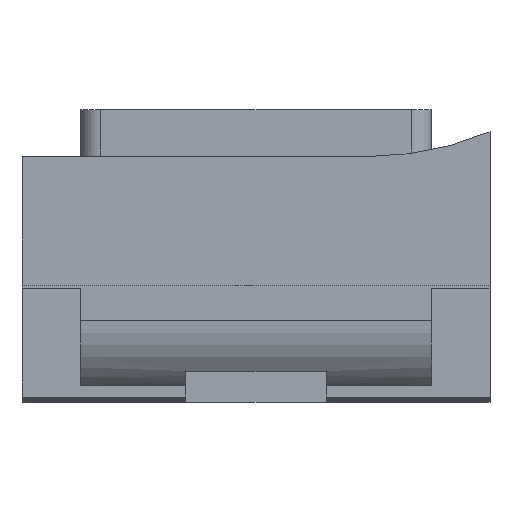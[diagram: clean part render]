
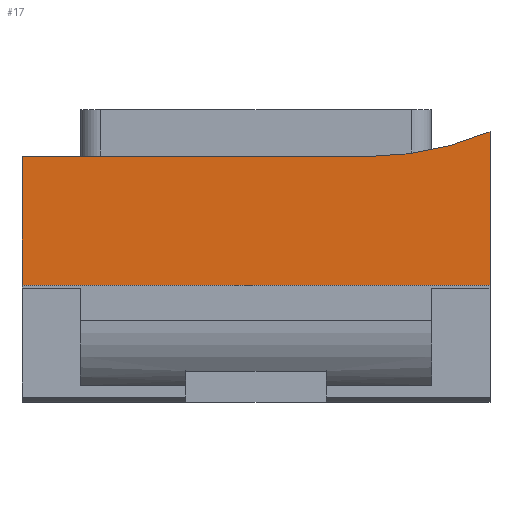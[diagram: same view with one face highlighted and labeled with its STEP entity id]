
A CAD part, left-side view. The second image highlights one B-rep face of the part: STEP entity #17.
In plain terms, the highlighted planar face has unit normal (-1, 0, 0).
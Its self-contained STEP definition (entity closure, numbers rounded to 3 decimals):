
#17 = ADVANCED_FACE('',(#18),#32,.F.);
#18 = FACE_BOUND('',#19,.F.);
#19 = EDGE_LOOP('',(#20,#53,#81,#107,#135));
#20 = ORIENTED_EDGE('',*,*,#21,.F.);
#21 = EDGE_CURVE('',#22,#24,#26,.T.);
#22 = VERTEX_POINT('',#23);
#23 = CARTESIAN_POINT('',(-42.8,-16.,-9.));
#24 = VERTEX_POINT('',#25);
#25 = CARTESIAN_POINT('',(-42.8,-16.,-6.375));
#26 = SURFACE_CURVE('',#27,(#31,#42),.PCURVE_S1.);
#27 = LINE('',#28,#29);
#28 = CARTESIAN_POINT('',(-42.8,-16.,-12.125));
#29 = VECTOR('',#30,1.);
#30 = DIRECTION('',(0.,0.,1.));
#31 = PCURVE('',#32,#37);
#32 = PLANE('',#33);
#33 = AXIS2_PLACEMENT_3D('',#34,#35,#36);
#34 = CARTESIAN_POINT('',(-42.8,-66.8,-13.2));
#35 = DIRECTION('',(1.,0.,0.));
#36 = DIRECTION('',(0.,0.,1.));
#37 = DEFINITIONAL_REPRESENTATION('',(#38),#41);
#38 = B_SPLINE_CURVE_WITH_KNOTS('',1,(#39,#40),.UNSPECIFIED.,.F.,.F.,(2,
    2),(3.125,6.325),.PIECEWISE_BEZIER_KNOTS.);
#39 = CARTESIAN_POINT('',(4.2,-50.8));
#40 = CARTESIAN_POINT('',(7.4,-50.8));
#41 = ( GEOMETRIC_REPRESENTATION_CONTEXT(2) 
PARAMETRIC_REPRESENTATION_CONTEXT() REPRESENTATION_CONTEXT('2D SPACE',''
  ) );
#42 = PCURVE('',#43,#48);
#43 = PLANE('',#44);
#44 = AXIS2_PLACEMENT_3D('',#45,#46,#47);
#45 = CARTESIAN_POINT('',(-43.,-16.,-11.05));
#46 = DIRECTION('',(0.,1.,0.));
#47 = DIRECTION('',(0.,0.,1.));
#48 = DEFINITIONAL_REPRESENTATION('',(#49),#52);
#49 = B_SPLINE_CURVE_WITH_KNOTS('',1,(#50,#51),.UNSPECIFIED.,.F.,.F.,(2,
    2),(3.125,6.325),.PIECEWISE_BEZIER_KNOTS.);
#50 = CARTESIAN_POINT('',(2.05,0.2));
#51 = CARTESIAN_POINT('',(5.25,0.2));
#52 = ( GEOMETRIC_REPRESENTATION_CONTEXT(2) 
PARAMETRIC_REPRESENTATION_CONTEXT() REPRESENTATION_CONTEXT('2D SPACE',''
  ) );
#53 = ORIENTED_EDGE('',*,*,#54,.F.);
#54 = EDGE_CURVE('',#55,#22,#57,.T.);
#55 = VERTEX_POINT('',#56);
#56 = CARTESIAN_POINT('',(-42.8,-8.,-9.));
#57 = SURFACE_CURVE('',#58,(#62,#69),.PCURVE_S1.);
#58 = LINE('',#59,#60);
#59 = CARTESIAN_POINT('',(-42.8,-88.4,-9.));
#60 = VECTOR('',#61,1.);
#61 = DIRECTION('',(0.,-1.,0.));
#62 = PCURVE('',#32,#63);
#63 = DEFINITIONAL_REPRESENTATION('',(#64),#68);
#64 = LINE('',#65,#66);
#65 = CARTESIAN_POINT('',(4.2,21.6));
#66 = VECTOR('',#67,1.);
#67 = DIRECTION('',(0.,1.));
#68 = ( GEOMETRIC_REPRESENTATION_CONTEXT(2) 
PARAMETRIC_REPRESENTATION_CONTEXT() REPRESENTATION_CONTEXT('2D SPACE',''
  ) );
#69 = PCURVE('',#70,#75);
#70 = PLANE('',#71);
#71 = AXIS2_PLACEMENT_3D('',#72,#73,#74);
#72 = CARTESIAN_POINT('',(-100.,-110.,-9.));
#73 = DIRECTION('',(0.,0.,1.));
#74 = DIRECTION('',(1.,0.,-0.));
#75 = DEFINITIONAL_REPRESENTATION('',(#76),#80);
#76 = LINE('',#77,#78);
#77 = CARTESIAN_POINT('',(57.2,21.6));
#78 = VECTOR('',#79,1.);
#79 = DIRECTION('',(0.,-1.));
#80 = ( GEOMETRIC_REPRESENTATION_CONTEXT(2) 
PARAMETRIC_REPRESENTATION_CONTEXT() REPRESENTATION_CONTEXT('2D SPACE',''
  ) );
#81 = ORIENTED_EDGE('',*,*,#82,.T.);
#82 = EDGE_CURVE('',#55,#83,#85,.T.);
#83 = VERTEX_POINT('',#84);
#84 = CARTESIAN_POINT('',(-42.8,-8.,-6.8));
#85 = SURFACE_CURVE('',#86,(#90,#96),.PCURVE_S1.);
#86 = LINE('',#87,#88);
#87 = CARTESIAN_POINT('',(-42.8,-8.,-12.125));
#88 = VECTOR('',#89,1.);
#89 = DIRECTION('',(0.,0.,1.));
#90 = PCURVE('',#32,#91);
#91 = DEFINITIONAL_REPRESENTATION('',(#92),#95);
#92 = B_SPLINE_CURVE_WITH_KNOTS('',1,(#93,#94),.UNSPECIFIED.,.F.,.F.,(2,
    2),(3.125,6.325),.PIECEWISE_BEZIER_KNOTS.);
#93 = CARTESIAN_POINT('',(4.2,-58.8));
#94 = CARTESIAN_POINT('',(7.4,-58.8));
#95 = ( GEOMETRIC_REPRESENTATION_CONTEXT(2) 
PARAMETRIC_REPRESENTATION_CONTEXT() REPRESENTATION_CONTEXT('2D SPACE',''
  ) );
#96 = PCURVE('',#97,#102);
#97 = PLANE('',#98);
#98 = AXIS2_PLACEMENT_3D('',#99,#100,#101);
#99 = CARTESIAN_POINT('',(-43.,-8.,-11.05));
#100 = DIRECTION('',(0.,1.,0.));
#101 = DIRECTION('',(0.,0.,1.));
#102 = DEFINITIONAL_REPRESENTATION('',(#103),#106);
#103 = B_SPLINE_CURVE_WITH_KNOTS('',1,(#104,#105),.UNSPECIFIED.,.F.,.F.,
  (2,2),(3.125,6.325),.PIECEWISE_BEZIER_KNOTS.);
#104 = CARTESIAN_POINT('',(2.05,0.2));
#105 = CARTESIAN_POINT('',(5.25,0.2));
#106 = ( GEOMETRIC_REPRESENTATION_CONTEXT(2) 
PARAMETRIC_REPRESENTATION_CONTEXT() REPRESENTATION_CONTEXT('2D SPACE',''
  ) );
#107 = ORIENTED_EDGE('',*,*,#108,.F.);
#108 = EDGE_CURVE('',#109,#83,#111,.T.);
#109 = VERTEX_POINT('',#110);
#110 = CARTESIAN_POINT('',(-42.8,-13.9,-6.8));
#111 = SURFACE_CURVE('',#112,(#116,#123),.PCURVE_S1.);
#112 = LINE('',#113,#114);
#113 = CARTESIAN_POINT('',(-42.8,-43.05,-6.8));
#114 = VECTOR('',#115,1.);
#115 = DIRECTION('',(-0.,1.,0.));
#116 = PCURVE('',#32,#117);
#117 = DEFINITIONAL_REPRESENTATION('',(#118),#122);
#118 = LINE('',#119,#120);
#119 = CARTESIAN_POINT('',(6.4,-23.75));
#120 = VECTOR('',#121,1.);
#121 = DIRECTION('',(0.,-1.));
#122 = ( GEOMETRIC_REPRESENTATION_CONTEXT(2) 
PARAMETRIC_REPRESENTATION_CONTEXT() REPRESENTATION_CONTEXT('2D SPACE',''
  ) );
#123 = PCURVE('',#124,#129);
#124 = PLANE('',#125);
#125 = AXIS2_PLACEMENT_3D('',#126,#127,#128);
#126 = CARTESIAN_POINT('',(-48.,-19.3,-6.8));
#127 = DIRECTION('',(0.,0.,-1.));
#128 = DIRECTION('',(1.,0.,0.));
#129 = DEFINITIONAL_REPRESENTATION('',(#130),#134);
#130 = LINE('',#131,#132);
#131 = CARTESIAN_POINT('',(5.2,23.75));
#132 = VECTOR('',#133,1.);
#133 = DIRECTION('',(0.,-1.));
#134 = ( GEOMETRIC_REPRESENTATION_CONTEXT(2) 
PARAMETRIC_REPRESENTATION_CONTEXT() REPRESENTATION_CONTEXT('2D SPACE',''
  ) );
#135 = ORIENTED_EDGE('',*,*,#136,.F.);
#136 = EDGE_CURVE('',#24,#109,#137,.T.);
#137 = SURFACE_CURVE('',#138,(#143,#150),.PCURVE_S1.);
#138 = CIRCLE('',#139,5.4);
#139 = AXIS2_PLACEMENT_3D('',#140,#141,#142);
#140 = CARTESIAN_POINT('',(-42.8,-13.9,-1.4));
#141 = DIRECTION('',(1.,0.,0.));
#142 = DIRECTION('',(0.,0.,-1.));
#143 = PCURVE('',#32,#144);
#144 = DEFINITIONAL_REPRESENTATION('',(#145),#149);
#145 = CIRCLE('',#146,5.4);
#146 = AXIS2_PLACEMENT_2D('',#147,#148);
#147 = CARTESIAN_POINT('',(11.8,-52.9));
#148 = DIRECTION('',(-1.,0.));
#149 = ( GEOMETRIC_REPRESENTATION_CONTEXT(2) 
PARAMETRIC_REPRESENTATION_CONTEXT() REPRESENTATION_CONTEXT('2D SPACE',''
  ) );
#150 = PCURVE('',#151,#156);
#151 = CYLINDRICAL_SURFACE('',#152,5.4);
#152 = AXIS2_PLACEMENT_3D('',#153,#154,#155);
#153 = CARTESIAN_POINT('',(-48.,-13.9,-1.4));
#154 = DIRECTION('',(1.,0.,0.));
#155 = DIRECTION('',(0.,0.,-1.));
#156 = DEFINITIONAL_REPRESENTATION('',(#157),#161);
#157 = LINE('',#158,#159);
#158 = CARTESIAN_POINT('',(0.,5.2));
#159 = VECTOR('',#160,1.);
#160 = DIRECTION('',(1.,-0.));
#161 = ( GEOMETRIC_REPRESENTATION_CONTEXT(2) 
PARAMETRIC_REPRESENTATION_CONTEXT() REPRESENTATION_CONTEXT('2D SPACE',''
  ) );
